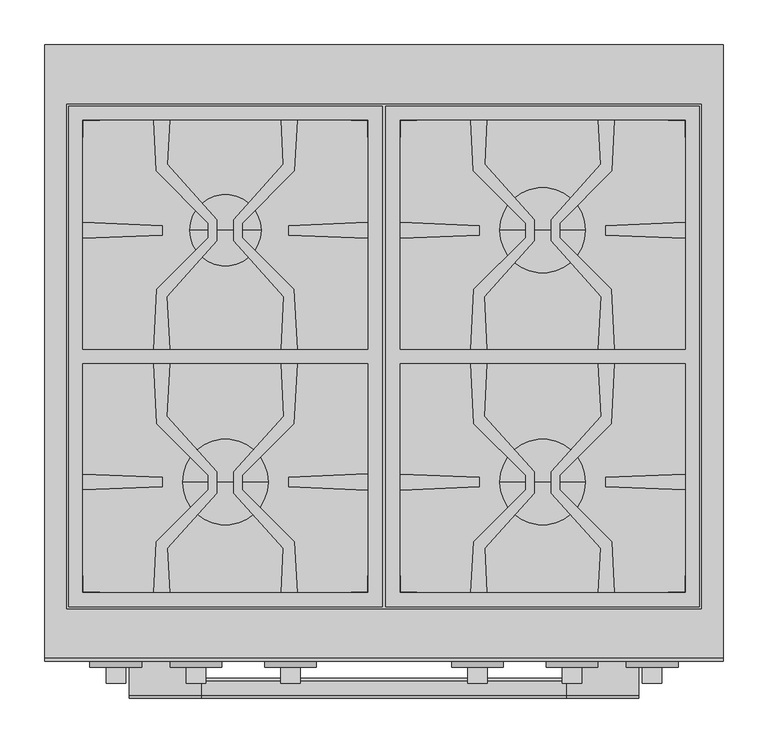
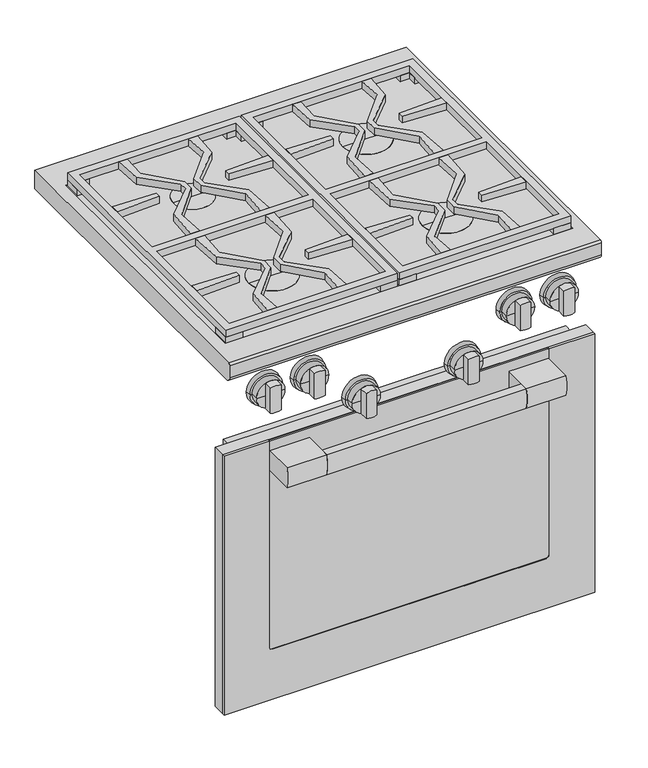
"""IFC4 building model written with IfcOpenShell, lengths in millimetres: proxy geometry, 11791530_USA_HR1724-3G_EDST-CLST : 25172481_USA_11791530_HR1724-3G_EDST-CLST."""

from ifc_helpers import new_model, si_unit, point, frame, frame_2d, origin, place, context, project, spatial, polyline, circle_curve, trimmed, segment, composite_curve, outline, extrude, source, transform, mapped, element, save
from ifc_brep_helpers import plane_surface, cylinder_surface, revolved_surface, advanced_brep


def specialty_equipment_ee7d39d8(model_context):
    return source(origin(), model_context, "Body", "SolidModel", [
        extrude(outline(polyline([(-351.0, -617.0), (351.0, -617.0), (351.0, -638.0), (-351.0, -638.0), (-351.0, -617.0)])), frame((0.0, 0.0, 133.0), z_axis=(0.0, 0.0, 1.0), x_axis=(1.0, 0.0, 0.0)), (0.0, 0.0, 1.0), 550.0),
        advanced_brep(
        [(287.0, -664.7, 688.0), (380.0, -664.7, 688.0), (380.0, -664.7, 127.0), (-380.0, -664.7, 127.0), (-380.0, -664.7, 688.0), (-287.0, -664.7, 688.0), (-287.0, -664.7, 687.0), (-379.0, -664.7, 687.0), (-379.0, -664.7, 128.0), (379.0, -664.7, 128.0), (379.0, -664.7, 687.0), (287.0, -664.7, 687.0), (-287.0, -670.0, 688.0), (-380.0, -670.0, 688.0), (-380.0, -670.0, 127.0), (380.0, -670.0, 127.0), (380.0, -670.0, 688.0), (287.0, -670.0, 688.0), (287.0, -670.0, 241.0), (281.0, -670.0, 235.0), (-281.0, -670.0, 235.0), (-287.0, -670.0, 241.0), (-287.0, -668.7, 241.0), (-287.0, -668.7, 687.0), (281.0, -668.7, 235.0), (-281.0, -668.7, 235.0), (287.0, -668.7, 687.0), (287.0, -668.7, 241.0), (379.0, -668.7, 687.0), (379.0, -668.7, 128.0), (-379.0, -668.7, 128.0), (-379.0, -668.7, 687.0)],
        [
            (0, 1),
            (1, 2),
            (2, 3),
            (3, 4),
            (4, 5),
            (5, 6),
            (6, 7),
            (7, 8),
            (8, 9),
            (9, 10),
            (10, 11),
            (11, 0),
            (12, 13),
            (13, 14),
            (14, 15),
            (15, 16),
            (16, 17),
            (17, 18),
            (18, 19, circle_curve(frame((281.0, -670.0, 241.0), z_axis=(0.0, 1.0, 0.0), x_axis=(-1.0, 0.0, 0.0)), 6.0)),
            (19, 20),
            (20, 21, circle_curve(frame((-281.0, -670.0, 241.0), z_axis=(0.0, 1.0, 0.0), x_axis=(-1.0, 0.0, 0.0)), 6.0)),
            (21, 12),
            (21, 22),
            (22, 23),
            (23, 6),
            (5, 12),
            (19, 24),
            (24, 25),
            (25, 20),
            (17, 0),
            (11, 26),
            (26, 27),
            (27, 18),
            (16, 1),
            (15, 2),
            (14, 3),
            (13, 4),
            (25, 22, circle_curve(frame((-281.0, -668.7, 241.0), z_axis=(0.0, 1.0, 0.0), x_axis=(-1.0, 0.0, 0.0)), 6.0)),
            (27, 24, circle_curve(frame((281.0, -668.7, 241.0), z_axis=(0.0, 1.0, 0.0), x_axis=(-1.0, 0.0, 0.0)), 6.0)),
            (28, 29),
            (29, 30),
            (30, 31),
            (31, 23),
            (26, 28),
            (28, 10),
            (9, 29),
            (8, 30),
            (7, 31),
        ],
        [
            plane_surface(frame((-287.0, -664.7, 241.0), z_axis=(0.0, 1.0, 0.0), x_axis=(0.0, 0.0, -1.0))),
            plane_surface(frame((-287.0, -670.0, 241.0), z_axis=(0.0, -1.0, 0.0), x_axis=(0.0, 0.0, 1.0))),
            plane_surface(frame((-287.0, -664.7, 688.0), z_axis=(1.0, 0.0, 0.0), x_axis=(0.0, -1.0, 0.0))),
            plane_surface(frame((-281.0, -664.7, 235.0), z_axis=(0.0, 0.0, 1.0), x_axis=(0.0, -1.0, 0.0))),
            plane_surface(frame((287.0, -664.7, 241.0), z_axis=(-1.0, 0.0, 0.0), x_axis=(0.0, -1.0, 0.0))),
            plane_surface(frame((287.0, -664.7, 688.0), z_axis=(0.0, 0.0, 1.0), x_axis=(0.0, -1.0, 0.0))),
            plane_surface(frame((380.0, -664.7, 688.0), z_axis=(1.0, 0.0, 0.0), x_axis=(0.0, -1.0, 0.0))),
            plane_surface(frame((380.0, -664.7, 127.0), z_axis=(0.0, 0.0, -1.0), x_axis=(0.0, -1.0, 0.0))),
            plane_surface(frame((-380.0, -664.7, 127.0), z_axis=(-1.0, 0.0, 0.0), x_axis=(0.0, -1.0, 0.0))),
            plane_surface(frame((-380.0, -664.7, 688.0), z_axis=(0.0, 0.0, 1.0), x_axis=(0.0, -1.0, 0.0))),
            revolved_surface(polyline([(-287.0, -670.0, 241.0), (-287.0, -668.7, 241.0)]), (-281.0, -670.0, 241.0), (0.0, -1.0, 0.0)),
            revolved_surface(polyline([(275.0, -670.0, 241.0), (275.0, -668.7, 241.0)]), (281.0, -670.0, 241.0), (0.0, -1.0, 0.0)),
            plane_surface(frame((379.0, -668.7, 687.0), z_axis=(0.0, 1.0, 0.0), x_axis=(0.0, 0.0, 1.0))),
            plane_surface(frame((379.0, -664.7, 687.0), z_axis=(-1.0, 0.0, 0.0), x_axis=(0.0, -1.0, 0.0))),
            plane_surface(frame((379.0, -664.7, 128.0), z_axis=(0.0, 0.0, 1.0), x_axis=(0.0, -1.0, 0.0))),
            plane_surface(frame((-379.0, -664.7, 128.0), z_axis=(1.0, 0.0, 0.0), x_axis=(0.0, -1.0, 0.0))),
            plane_surface(frame((-379.0, -664.7, 687.0), z_axis=(0.0, 0.0, -1.0), x_axis=(0.0, -1.0, 0.0))),
        ],
        [
            (0, [[1, 2, 3, 4, 5, 6, 7, 8, 9, 10, 11, 12]]),
            (1, [[13, 14, 15, 16, 17, 18, 19, 20, 21, 22]]),
            (2, [[-22, 23, 24, 25, -6, 26]]),
            (3, [[-20, 27, 28, 29]]),
            (4, [[-18, 30, -12, 31, 32, 33]]),
            (5, [[-1, -30, -17, 34]]),
            (6, [[-2, -34, -16, 35]]),
            (7, [[-3, -35, -15, 36]]),
            (8, [[-4, -36, -14, 37]]),
            (9, [[-5, -37, -13, -26]]),
            (10, [[-21, -29, 38, -23]]),
            (11, [[-19, -33, 39, -27]]),
            (12, [[40, 41, 42, 43, -24, -38, -28, -39, -32, 44]]),
            (13, [[-40, 45, -10, 46]]),
            (14, [[-41, -46, -9, 47]]),
            (15, [[-42, -47, -8, 48]]),
            (16, [[-45, -44, -31, -11]]),
            (16, [[-48, -7, -25, -43]]),
        ],
    ),
        extrude(outline(polyline([(-379.0, -664.7), (379.0, -664.7), (379.0, -668.7), (-379.0, -668.7), (-379.0, -664.7)])), frame((0.0, 0.0, 128.0), z_axis=(0.0, 0.0, 1.0), x_axis=(1.0, 0.0, 0.0)), (0.0, 0.0, 1.0), 559.0),
        extrude(outline(polyline([(-380.0, -638.0), (380.0, -638.0), (380.0, -664.7), (-380.0, -664.7), (-380.0, -638.0)])), frame((0.0, 0.0, 127.0), z_axis=(0.0, 0.0, 1.0), x_axis=(1.0, 0.0, 0.0)), (0.0, 0.0, 1.0), 561.0),
        extrude(outline(composite_curve([segment(polyline([(-668.7, 667.0), (-668.7, 624.0), (-731.0, 624.0)]), True, "CONTINUOUS"), segment(trimmed(circle_curve(frame_2d((-655.4583333, 645.5)), 78.5416667), [point((-731.0, 624.0))], [point((-731.0, 667.0))], False, "CARTESIAN"), True, "CONTINUOUS"), segment(polyline([(-731.0, 667.0), (-668.7, 667.0)]), True, "CONTINUOUS")], self_intersect=False)), frame((-286.0, 0.0, 0.0), z_axis=(1.0, 0.0, 0.0), x_axis=(0.0, 1.0, 0.0)), (0.0, 0.0, 1.0), 81.0),
        extrude(outline(composite_curve([segment(polyline([(-731.0, 667.0), (-668.7, 667.0), (-668.7, 624.0), (-731.0, 624.0)]), True, "CONTINUOUS"), segment(trimmed(circle_curve(frame_2d((-655.4583333, 645.5)), 78.5416667), [point((-731.0, 624.0))], [point((-731.0, 667.0))], False, "CARTESIAN"), True, "CONTINUOUS")], self_intersect=False)), frame((205.0, 0.0, 0.0), z_axis=(1.0, 0.0, 0.0), x_axis=(0.0, 1.0, 0.0)), (0.0, 0.0, 1.0), 81.0),
        extrude(outline(composite_curve([segment(polyline([(-714.0, 624.0), (-731.0, 624.0)]), True, "CONTINUOUS"), segment(trimmed(circle_curve(frame_2d((-655.4583333, 645.5)), 78.5416667), [point((-731.0, 624.0))], [point((-731.0, 667.0))], False, "CARTESIAN"), True, "CONTINUOUS"), segment(polyline([(-731.0, 667.0), (-714.0, 667.0)]), True, "CONTINUOUS"), segment(trimmed(circle_curve(frame_2d((-789.5416667, 645.5)), 78.5416667), [point((-714.0, 667.0))], [point((-714.0, 624.0))], False, "CARTESIAN"), True, "CONTINUOUS")], self_intersect=False)), frame((-205.0, 0.0, 0.0), z_axis=(1.0, 0.0, 0.0), x_axis=(0.0, 1.0, 0.0)), (0.0, 0.0, 1.0), 410.0),
        advanced_brep(
        [(381.0, 0.0, 902.0), (381.0, -688.3499547, 902.0), (381.0, -692.0, 898.3499547), (381.0, -692.0, 872.0), (381.0, -682.0, 862.0), (381.0, 0.0, 862.0), (-381.0, 0.0, 902.0), (-381.0, 0.0, 862.0), (-381.0, -682.0, 862.0), (-381.0, -692.0, 872.0), (-381.0, -692.0, 898.3499547), (-381.0, -688.3499547, 902.0), (-356.0, -67.0, 902.0), (356.0, -67.0, 902.0), (356.0, -633.0, 902.0), (-356.0, -633.0, 902.0), (356.0, -67.0, 870.0), (-356.0, -67.0, 870.0), (-356.0, -633.0, 870.0), (356.0, -633.0, 870.0)],
        [
            (0, 1),
            (1, 2, circle_curve(frame((381.0, -688.0, 898.0), z_axis=(1.0, 0.0, 0.0), x_axis=(0.0, 0.0, 1.0)), 4.0152794)),
            (2, 3),
            (3, 4, circle_curve(frame((381.0, -682.0, 872.0), z_axis=(1.0, 0.0, 0.0), x_axis=(0.0, 0.0, 1.0)), 10.0)),
            (4, 5),
            (5, 0),
            (6, 7),
            (7, 8),
            (8, 9, circle_curve(frame((-381.0, -682.0, 872.0), z_axis=(-1.0, 0.0, 0.0), x_axis=(0.0, 0.0, 1.0)), 10.0)),
            (9, 10),
            (10, 11, circle_curve(frame((-381.0, -688.0, 898.0), z_axis=(-1.0, 0.0, 0.0), x_axis=(0.0, 0.0, 1.0)), 4.0152794)),
            (11, 6),
            (0, 6),
            (11, 1),
            (12, 13),
            (13, 14),
            (14, 15),
            (15, 12),
            (10, 2),
            (9, 3),
            (8, 4),
            (7, 5),
            (16, 17),
            (17, 18),
            (18, 19),
            (19, 16),
            (16, 13),
            (12, 17),
            (15, 18),
            (14, 19),
        ],
        [
            plane_surface(frame((381.0, -688.3499547, 902.0), z_axis=(1.0, 0.0, 0.0), x_axis=(0.0, -1.0, 0.0))),
            plane_surface(frame((-381.0, -688.3499547, 902.0), z_axis=(-1.0, 0.0, 0.0), x_axis=(0.0, 1.0, 0.0))),
            plane_surface(frame((381.0, 0.0, 902.0), z_axis=(0.0, 0.0, 1.0), x_axis=(-1.0, 0.0, 0.0))),
            cylinder_surface(frame((-381.0, -688.0, 898.0), z_axis=(1.0, 0.0, 0.0), x_axis=(0.0, 0.0, 1.0)), 4.0152794),
            plane_surface(frame((381.0, -692.0, 898.3499547), z_axis=(0.0, -1.0, 0.0), x_axis=(-1.0, 0.0, 0.0))),
            cylinder_surface(frame((-381.0, -682.0, 872.0), z_axis=(1.0, 0.0, 0.0), x_axis=(0.0, 0.0, 1.0)), 10.0),
            plane_surface(frame((381.0, -682.0, 862.0), z_axis=(0.0, 0.0, -1.0), x_axis=(-1.0, 0.0, 0.0))),
            plane_surface(frame((381.0, 0.0, 862.0), z_axis=(0.0, 1.0, 0.0), x_axis=(-1.0, 0.0, 0.0))),
            plane_surface(frame((-356.0, -67.0, 870.0), z_axis=(0.0, 0.0, 1.0), x_axis=(1.0, 0.0, 0.0))),
            plane_surface(frame((356.0, -67.0, 902.0), z_axis=(0.0, -1.0, 0.0), x_axis=(0.0, 0.0, -1.0))),
            plane_surface(frame((-356.0, -67.0, 902.0), z_axis=(1.0, 0.0, 0.0), x_axis=(0.0, 0.0, -1.0))),
            plane_surface(frame((-356.0, -633.0, 902.0), z_axis=(0.0, 1.0, 0.0), x_axis=(0.0, 0.0, -1.0))),
            plane_surface(frame((356.0, -633.0, 902.0), z_axis=(-1.0, 0.0, 0.0), x_axis=(0.0, 0.0, -1.0))),
        ],
        [
            (0, [[1, 2, 3, 4, 5, 6]]),
            (1, [[7, 8, 9, 10, 11, 12]]),
            (2, [[-1, 13, -12, 14], [15, 16, 17, 18]]),
            (3, [[-2, -14, -11, 19]]),
            (4, [[-3, -19, -10, 20]]),
            (5, [[-4, -20, -9, 21]]),
            (6, [[-5, -21, -8, 22]]),
            (7, [[-6, -22, -7, -13]]),
            (8, [[23, 24, 25, 26]]),
            (9, [[-23, 27, -15, 28]]),
            (10, [[-24, -28, -18, 29]]),
            (11, [[-25, -29, -17, 30]]),
            (12, [[-26, -30, -16, -27]]),
        ],
    ),
        advanced_brep(
        [(130.0, -491.0, 887.0), (226.0, -491.0, 887.0), (226.0, -491.0, 901.0), (130.0, -491.0, 901.0), (178.0, -491.0, 887.0), (178.0, -491.0, 901.0)],
        [
            (0, 1, circle_curve(frame((178.0, -491.0, 887.0), z_axis=(0.0, 0.0, 1.0), x_axis=(1.0, 0.0, 0.0)), 48.0)),
            (1, 2),
            (2, 3, circle_curve(frame((178.0, -491.0, 901.0), z_axis=(0.0, 0.0, -1.0), x_axis=(1.0, 0.0, 0.0)), 48.0)),
            (3, 0),
            (1, 0, circle_curve(frame((178.0, -491.0, 887.0), z_axis=(0.0, 0.0, 1.0), x_axis=(1.0, 0.0, 0.0)), 48.0)),
            (3, 2, circle_curve(frame((178.0, -491.0, 901.0), z_axis=(0.0, 0.0, -1.0), x_axis=(1.0, 0.0, 0.0)), 48.0)),
            (4, 1),
            (0, 4),
            (2, 5),
            (5, 3),
        ],
        [
            cylinder_surface(frame((178.0, -491.0, 2424.4), z_axis=(0.0, 0.0, -1.0), x_axis=(1.0, 0.0, 0.0)), 48.0),
            plane_surface(frame((178.0, -491.0, 887.0), z_axis=(0.0, 0.0, -1.0), x_axis=(1.0, 0.0, 0.0))),
            plane_surface(frame((178.0, -491.0, 901.0), z_axis=(0.0, 0.0, 1.0), x_axis=(1.0, 0.0, 0.0))),
        ],
        [
            (0, [[1, 2, 3, 4]]),
            (0, [[5, -4, 6, -2]]),
            (1, [[7, -1, 8]]),
            (1, [[-8, -5, -7]]),
            (2, [[-3, 9, 10]]),
            (2, [[-6, -10, -9]]),
        ],
    ),
        advanced_brep(
        [(-226.0, -491.0, 887.0), (-130.0, -491.0, 887.0), (-130.0, -491.0, 901.0), (-226.0, -491.0, 901.0), (-178.0, -491.0, 887.0), (-178.0, -491.0, 901.0)],
        [
            (0, 1, circle_curve(frame((-178.0, -491.0, 887.0), z_axis=(0.0, 0.0, 1.0), x_axis=(1.0, 0.0, 0.0)), 48.0)),
            (1, 2),
            (2, 3, circle_curve(frame((-178.0, -491.0, 901.0), z_axis=(0.0, 0.0, -1.0), x_axis=(1.0, 0.0, 0.0)), 48.0)),
            (3, 0),
            (1, 0, circle_curve(frame((-178.0, -491.0, 887.0), z_axis=(0.0, 0.0, 1.0), x_axis=(1.0, 0.0, 0.0)), 48.0)),
            (3, 2, circle_curve(frame((-178.0, -491.0, 901.0), z_axis=(0.0, 0.0, -1.0), x_axis=(1.0, 0.0, 0.0)), 48.0)),
            (4, 1),
            (0, 4),
            (2, 5),
            (5, 3),
        ],
        [
            cylinder_surface(frame((-178.0, -491.0, 2424.4), z_axis=(0.0, 0.0, -1.0), x_axis=(1.0, 0.0, 0.0)), 48.0),
            plane_surface(frame((-178.0, -491.0, 887.0), z_axis=(0.0, 0.0, -1.0), x_axis=(1.0, 0.0, 0.0))),
            plane_surface(frame((-178.0, -491.0, 901.0), z_axis=(0.0, 0.0, 1.0), x_axis=(1.0, 0.0, 0.0))),
        ],
        [
            (0, [[1, 2, 3, 4]]),
            (0, [[5, -4, 6, -2]]),
            (1, [[7, -1, 8]]),
            (1, [[-8, -5, -7]]),
            (2, [[-3, 9, 10]]),
            (2, [[-6, -10, -9]]),
        ],
    ),
        advanced_brep(
        [(-178.0, -208.5, 887.0), (-138.0, -208.5, 887.0), (-218.0, -208.5, 887.0), (-218.0, -208.5, 901.0), (-138.0, -208.5, 901.0), (-178.0, -208.5, 901.0)],
        [
            (0, 1),
            (1, 2, circle_curve(frame((-178.0, -208.5, 887.0), z_axis=(0.0, 0.0, -1.0), x_axis=(1.0, 0.0, 0.0)), 40.0)),
            (2, 0),
            (2, 1, circle_curve(frame((-178.0, -208.5, 887.0), z_axis=(0.0, 0.0, -1.0), x_axis=(1.0, 0.0, 0.0)), 40.0)),
            (3, 4, circle_curve(frame((-178.0, -208.5, 901.0), z_axis=(0.0, 0.0, 1.0), x_axis=(1.0, 0.0, 0.0)), 40.0)),
            (4, 5),
            (5, 3),
            (4, 3, circle_curve(frame((-178.0, -208.5, 901.0), z_axis=(0.0, 0.0, 1.0), x_axis=(1.0, 0.0, 0.0)), 40.0)),
            (1, 4),
            (3, 2),
        ],
        [
            plane_surface(frame((-178.0, -208.5, 887.0), z_axis=(0.0, 0.0, -1.0), x_axis=(1.0, 0.0, 0.0))),
            plane_surface(frame((-178.0, -208.5, 901.0), z_axis=(0.0, 0.0, 1.0), x_axis=(1.0, 0.0, 0.0))),
            cylinder_surface(frame((-178.0, -208.5, 2424.4), z_axis=(0.0, 0.0, -1.0), x_axis=(1.0, 0.0, 0.0)), 40.0),
        ],
        [
            (0, [[1, 2, 3]]),
            (0, [[-3, 4, -1]]),
            (1, [[5, 6, 7]]),
            (1, [[8, -7, -6]]),
            (2, [[-2, 9, -5, 10]]),
            (2, [[-4, -10, -8, -9]]),
        ],
    ),
        advanced_brep(
        [(130.0, -208.5, 887.0), (226.0, -208.5, 887.0), (226.0, -208.5, 901.0), (130.0, -208.5, 901.0), (178.0, -208.5, 887.0), (178.0, -208.5, 901.0)],
        [
            (0, 1, circle_curve(frame((178.0, -208.5, 887.0), z_axis=(0.0, 0.0, 1.0), x_axis=(1.0, 0.0, 0.0)), 48.0)),
            (1, 2),
            (2, 3, circle_curve(frame((178.0, -208.5, 901.0), z_axis=(0.0, 0.0, -1.0), x_axis=(1.0, 0.0, 0.0)), 48.0)),
            (3, 0),
            (1, 0, circle_curve(frame((178.0, -208.5, 887.0), z_axis=(0.0, 0.0, 1.0), x_axis=(1.0, 0.0, 0.0)), 48.0)),
            (3, 2, circle_curve(frame((178.0, -208.5, 901.0), z_axis=(0.0, 0.0, -1.0), x_axis=(1.0, 0.0, 0.0)), 48.0)),
            (4, 1),
            (0, 4),
            (2, 5),
            (5, 3),
        ],
        [
            cylinder_surface(frame((178.0, -208.5, 2338.4), z_axis=(0.0, 0.0, -1.0), x_axis=(1.0, 0.0, 0.0)), 48.0),
            plane_surface(frame((178.0, -208.5, 887.0), z_axis=(0.0, 0.0, -1.0), x_axis=(1.0, 0.0, 0.0))),
            plane_surface(frame((178.0, -208.5, 901.0), z_axis=(0.0, 0.0, 1.0), x_axis=(1.0, 0.0, 0.0))),
        ],
        [
            (0, [[1, 2, 3, 4]]),
            (0, [[5, -4, 6, -2]]),
            (1, [[7, -1, 8]]),
            (1, [[-8, -5, -7]]),
            (2, [[-3, 9, 10]]),
            (2, [[-6, -10, -9]]),
        ],
    ),
        extrude(outline(polyline([(354.0, -631.0), (319.0, -631.0), (319.0, -615.0), (338.0337834, -615.0), (338.0337834, -596.0), (354.0, -596.0), (354.0, -631.0)])), frame((0.0, 0.0, 887.0), z_axis=(0.0, 0.0, 1.0), x_axis=(1.0, 0.0, 0.0)), (0.0, 0.0, 1.0), 27.0),
        extrude(outline(polyline([(2.0, -631.0), (2.0, -596.0), (18.0337834, -596.0), (18.0337834, -615.0), (37.0, -615.0), (37.0, -631.0), (2.0, -631.0)])), frame((0.0, 0.0, 887.0), z_axis=(0.0, 0.0, 1.0), x_axis=(1.0, 0.0, 0.0)), (0.0, 0.0, 1.0), 27.0),
        extrude(outline(polyline([(354.0, -69.0), (354.0, -104.0), (338.0337834, -104.0), (338.0337834, -85.0), (319.0, -85.0), (319.0, -69.0), (354.0, -69.0)])), frame((0.0, 0.0, 887.0), z_axis=(0.0, 0.0, 1.0), x_axis=(1.0, 0.0, 0.0)), (0.0, 0.0, 1.0), 27.0),
        extrude(outline(polyline([(2.0, -69.0), (37.0, -69.0), (37.0, -85.0), (18.0337834, -85.0), (18.0337834, -104.0), (2.0, -104.0), (2.0, -69.0)])), frame((0.0, 0.0, 887.0), z_axis=(0.0, 0.0, 1.0), x_axis=(1.0, 0.0, 0.0)), (0.0, 0.0, 1.0), 27.0),
        extrude(outline(polyline([(354.0, -69.0), (354.0, -631.0), (2.0, -631.0), (2.0, -69.0), (354.0, -69.0)]), holes=[polyline([(338.0337834, -85.0), (18.0337834, -85.0), (18.0337834, -342.0), (338.0337834, -342.0), (338.0337834, -85.0)]), polyline([(18.0337834, -358.0), (18.0337834, -615.0), (338.0337834, -615.0), (338.0337834, -358.0), (18.0337834, -358.0)])]), frame((0.0, 0.0, 914.0), z_axis=(0.0, 0.0, 1.0), x_axis=(1.0, 0.0, 0.0)), (0.0, 0.0, 1.0), 15.0),
        extrude(outline(polyline([(-2.0, -69.0), (-2.0, -631.0), (-354.0, -631.0), (-354.0, -69.0), (-2.0, -69.0)]), holes=[polyline([(-18.0, -85.0), (-338.0, -85.0), (-338.0, -342.0), (-18.0, -342.0), (-18.0, -85.0)]), polyline([(-338.0, -358.0), (-338.0, -615.0), (-18.0, -615.0), (-18.0, -358.0), (-338.0, -358.0)])]), frame((0.0, 0.0, 914.0), z_axis=(0.0, 0.0, 1.0), x_axis=(1.0, 0.0, 0.0)), (0.0, 0.0, 1.0), 15.0),
        extrude(outline(polyline([(18.0337834, -217.4810574), (18.0337834, -199.5189426), (107.0337834, -203.2078739), (107.0337834, -213.7921261), (18.0337834, -217.4810574)])), frame((0.0, 0.0, 914.0), z_axis=(0.0, 0.0, 1.0), x_axis=(1.0, 0.0, 0.0)), (0.0, 0.0, 1.0), 15.0),
        extrude(outline(polyline([(338.0337834, -199.5262039), (338.0337834, -217.4737961), (249.0337834, -213.7790477), (249.0337834, -203.2209523), (338.0337834, -199.5262039)])), frame((0.0, 0.0, 914.0), z_axis=(0.0, 0.0, 1.0), x_axis=(1.0, 0.0, 0.0)), (0.0, 0.0, 1.0), 15.0),
        extrude(outline(polyline([(18.0337834, -499.9810574), (18.0337834, -482.0189426), (107.0337834, -485.7078739), (107.0337834, -496.2921261), (18.0337834, -499.9810574)])), frame((0.0, 0.0, 914.0), z_axis=(0.0, 0.0, 1.0), x_axis=(1.0, 0.0, 0.0)), (0.0, 0.0, 1.0), 15.0),
        extrude(outline(polyline([(338.0337834, -482.0262039), (338.0337834, -499.9737961), (249.0337834, -496.2790477), (249.0337834, -485.7209523), (338.0337834, -482.0262039)])), frame((0.0, 0.0, 914.0), z_axis=(0.0, 0.0, 1.0), x_axis=(1.0, 0.0, 0.0)), (0.0, 0.0, 1.0), 15.0),
        extrude(outline(polyline([(-2.0, -631.0), (-37.0, -631.0), (-37.0, -615.0), (-18.0, -615.0), (-18.0, -596.0), (-2.0, -596.0), (-2.0, -631.0)])), frame((0.0, 0.0, 887.0), z_axis=(0.0, 0.0, 1.0), x_axis=(1.0, 0.0, 0.0)), (0.0, 0.0, 1.0), 27.0),
        extrude(outline(polyline([(-354.0, -631.0), (-354.0, -596.0), (-338.0, -596.0), (-338.0, -615.0), (-319.0, -615.0), (-319.0, -631.0), (-354.0, -631.0)])), frame((0.0, 0.0, 887.0), z_axis=(0.0, 0.0, 1.0), x_axis=(1.0, 0.0, 0.0)), (0.0, 0.0, 1.0), 27.0),
        extrude(outline(polyline([(-2.0, -69.0), (-2.0, -104.0), (-18.0, -104.0), (-18.0, -85.0), (-37.0, -85.0), (-37.0, -69.0), (-2.0, -69.0)])), frame((0.0, 0.0, 887.0), z_axis=(0.0, 0.0, 1.0), x_axis=(1.0, 0.0, 0.0)), (0.0, 0.0, 1.0), 27.0),
        extrude(outline(polyline([(-354.0, -69.0), (-319.0, -69.0), (-319.0, -85.0), (-338.0, -85.0), (-338.0, -104.0), (-354.0, -104.0), (-354.0, -69.0)])), frame((0.0, 0.0, 887.0), z_axis=(0.0, 0.0, 1.0), x_axis=(1.0, 0.0, 0.0)), (0.0, 0.0, 1.0), 27.0),
        extrude(outline(polyline([(-249.0, -496.2921261), (-338.0, -499.9578849), (-338.0, -482.0421151), (-249.0, -485.7078739), (-249.0, -496.2921261)])), frame((0.0, 0.0, 914.0), z_axis=(0.0, 0.0, 1.0), x_axis=(1.0, 0.0, 0.0)), (0.0, 0.0, 1.0), 15.0),
        extrude(outline(polyline([(-18.0, -482.0029948), (-18.0, -499.9970052), (-107.0, -496.2790477), (-107.0, -485.7209523), (-18.0, -482.0029948)])), frame((0.0, 0.0, 914.0), z_axis=(0.0, 0.0, 1.0), x_axis=(1.0, 0.0, 0.0)), (0.0, 0.0, 1.0), 15.0),
        extrude(outline(polyline([(-249.0, -213.7921261), (-338.0, -217.4578849), (-338.0, -199.5421151), (-249.0, -203.2078739), (-249.0, -213.7921261)])), frame((0.0, 0.0, 914.0), z_axis=(0.0, 0.0, 1.0), x_axis=(1.0, 0.0, 0.0)), (0.0, 0.0, 1.0), 15.0),
        extrude(outline(polyline([(-18.0, -199.5029948), (-18.0, -217.4970052), (-107.0, -213.7790477), (-107.0, -203.2209523), (-18.0, -199.5029948)])), frame((0.0, 0.0, 914.0), z_axis=(0.0, 0.0, 1.0), x_axis=(1.0, 0.0, 0.0)), (0.0, 0.0, 1.0), 15.0),
        extrude(outline(polyline([(-2.0, -67.0), (-2.0, -633.0), (-354.0, -633.0), (-354.0, -67.0), (-2.0, -67.0)])), frame((0.0, 0.0, 870.0), z_axis=(0.0, 0.0, 1.0), x_axis=(1.0, 0.0, 0.0)), (0.0, 0.0, 1.0), 17.0),
        extrude(outline(polyline([(354.0, -69.0), (354.0, -631.0), (2.0, -631.0), (2.0, -69.0), (354.0, -69.0)])), frame((0.0, 0.0, 870.0), z_axis=(0.0, 0.0, 1.0), x_axis=(1.0, 0.0, 0.0)), (0.0, 0.0, 1.0), 17.0),
        extrude(outline(polyline([(115.4614138, -85.0), (112.8661974, -134.5196799), (168.5, -196.6082182), (168.5, -220.3917818), (112.3710782, -283.0328838), (115.4614138, -342.0), (97.4614138, -342.0), (100.9971843, -274.5334805), (158.8891082, -216.6415566), (158.8891082, -200.3584434), (100.4441217, -141.9134569), (97.4614138, -85.0), (115.4614138, -85.0)])), frame((0.0, 0.0, 914.0), z_axis=(0.0, 0.0, 1.0), x_axis=(1.0, 0.0, 0.0)), (0.0, 0.0, 1.0), 15.0),
        extrude(outline(polyline([(243.0952165, -134.5196799), (240.5, -85.0), (258.5, -85.0), (255.5172921, -141.9134569), (197.1108918, -200.3198573), (197.1108918, -216.6801428), (254.9642295, -274.5334805), (258.5, -342.0), (240.5, -342.0), (243.5903356, -283.0328839), (187.5, -220.4348449), (187.5, -196.5651551), (243.0952165, -134.5196799)])), frame((0.0, 0.0, 914.0), z_axis=(0.0, 0.0, 1.0), x_axis=(1.0, 0.0, 0.0)), (0.0, 0.0, 1.0), 15.0),
        extrude(outline(polyline([(-258.5385862, -85.0), (-240.5385862, -85.0), (-243.1338026, -134.5196799), (-187.5, -196.6082182), (-187.5, -220.3917818), (-243.6289218, -283.0328838), (-240.5385862, -342.0), (-258.5385862, -342.0), (-255.0028157, -274.5334805), (-197.1108918, -216.6415566), (-197.1108918, -200.3584434), (-255.5558783, -141.9134569), (-258.5385862, -85.0)])), frame((0.0, 0.0, 914.0), z_axis=(0.0, 0.0, 1.0), x_axis=(1.0, 0.0, 0.0)), (0.0, 0.0, 1.0), 15.0),
        extrude(outline(polyline([(-115.5, -85.0), (-97.5, -85.0), (-100.4827079, -141.9134569), (-158.8891082, -200.3198573), (-158.8891082, -216.6801428), (-101.0357705, -274.5334805), (-97.5, -342.0), (-115.5, -342.0), (-112.4096644, -283.0328839), (-168.5, -220.4348449), (-168.5, -196.5651551), (-112.9047835, -134.5196799), (-115.5, -85.0)])), frame((0.0, 0.0, 914.0), z_axis=(0.0, 0.0, 1.0), x_axis=(1.0, 0.0, 0.0)), (0.0, 0.0, 1.0), 15.0),
        extrude(outline(polyline([(-258.5822696, -358.0273828), (-240.5825893, -358.0273828), (-243.6525581, -416.9894265), (-187.5409434, -479.568392), (-187.5409434, -503.4471434), (-243.1069467, -565.5024535), (-240.4948945, -615.0212482), (-258.4945748, -615.0212482), (-255.5293542, -558.0710081), (-197.1505447, -499.6921986), (-197.1505447, -483.3657133), (-255.0235617, -425.4926963), (-258.5822696, -358.0273828)])), frame((0.0, 0.0, 914.0), z_axis=(0.0, 0.0, 1.0), x_axis=(1.0, 0.0, 0.0)), (0.0, 0.0, 1.0), 15.0),
        extrude(outline(polyline([(-115.5411265, -358.0273828), (-97.5465434, -358.0273828), (-101.0565254, -425.4403498), (-158.9287769, -483.3126013), (-158.9287769, -499.6295194), (-100.4561608, -558.1021355), (-97.4537513, -615.0212482), (-115.458529, -615.0212482), (-112.8779352, -565.4581775), (-168.5409298, -503.3795395), (-168.5409298, -479.6049953), (-112.4333083, -416.9448139), (-115.5411265, -358.0273828)])), frame((0.0, 0.0, 914.0), z_axis=(0.0, 0.0, 1.0), x_axis=(1.0, 0.0, 0.0)), (0.0, 0.0, 1.0), 15.0),
        extrude(outline(polyline([(97.4177304, -358.0273828), (115.4174107, -358.0273828), (112.3474419, -416.9894265), (168.4590566, -479.568392), (168.4590566, -503.4471434), (112.8930533, -565.5024535), (115.5051055, -615.0212482), (97.5054252, -615.0212482), (100.4706458, -558.0710081), (158.8494553, -499.6921986), (158.8494553, -483.3657133), (100.9764383, -425.4926963), (97.4177304, -358.0273828)])), frame((0.0, 0.0, 914.0), z_axis=(0.0, 0.0, 1.0), x_axis=(1.0, 0.0, 0.0)), (0.0, 0.0, 1.0), 15.0),
        extrude(outline(polyline([(243.5666917, -416.9448139), (240.4588735, -358.0273828), (258.4534566, -358.0273828), (254.9434746, -425.4403498), (197.0712231, -483.3126013), (197.0712231, -499.6295194), (255.5438392, -558.1021355), (258.5462487, -615.0212482), (240.541471, -615.0212482), (243.1220648, -565.4581775), (187.4590702, -503.3795395), (187.4590702, -479.6049953), (243.5666917, -416.9448139)])), frame((0.0, 0.0, 914.0), z_axis=(0.0, 0.0, 1.0), x_axis=(1.0, 0.0, 0.0)), (0.0, 0.0, 1.0), 15.0),
        extrude(outline(polyline([(356.0, -67.0), (356.0, -633.0), (-356.0, -633.0), (-356.0, -67.0), (356.0, -67.0)])), frame((0.0, 0.0, 870.0), z_axis=(0.0, 0.0, 1.0), x_axis=(1.0, 0.0, 0.0)), (0.0, 0.0, 1.0), 31.0),
        advanced_brep(
        [(301.0, -683.0, 813.0), (330.0, -683.0, 813.0), (272.0, -683.0, 813.0), (272.0, -699.0, 813.0), (330.0, -699.0, 813.0), (301.0, -699.0, 813.0)],
        [
            (0, 1),
            (1, 2, circle_curve(frame((301.0, -683.0, 813.0), z_axis=(0.0, 1.0, 0.0), x_axis=(1.0, 0.0, 0.0)), 29.0)),
            (2, 0),
            (2, 1, circle_curve(frame((301.0, -683.0, 813.0), z_axis=(0.0, 1.0, 0.0), x_axis=(1.0, 0.0, 0.0)), 29.0)),
            (3, 4, circle_curve(frame((301.0, -699.0, 813.0), z_axis=(0.0, -1.0, 0.0), x_axis=(1.0, 0.0, 0.0)), 29.0)),
            (4, 5),
            (5, 3),
            (4, 3, circle_curve(frame((301.0, -699.0, 813.0), z_axis=(0.0, -1.0, 0.0), x_axis=(1.0, 0.0, 0.0)), 29.0)),
            (1, 4),
            (3, 2),
        ],
        [
            plane_surface(frame((301.0, -683.0, 813.0), z_axis=(0.0, 1.0, 0.0), x_axis=(1.0, 0.0, 0.0))),
            plane_surface(frame((301.0, -699.0, 813.0), z_axis=(0.0, -1.0, 0.0), x_axis=(1.0, 0.0, 0.0))),
            cylinder_surface(frame((301.0, 751.3738435, 813.0), z_axis=(0.0, 1.0, 0.0), x_axis=(1.0, 0.0, 0.0)), 29.0),
        ],
        [
            (0, [[1, 2, 3]]),
            (0, [[-3, 4, -1]]),
            (1, [[5, 6, 7]]),
            (1, [[8, -7, -6]]),
            (2, [[-2, 9, -5, 10]]),
            (2, [[-4, -10, -8, -9]]),
        ],
    ),
        extrude(outline(composite_curve([segment(polyline([(786.1671843, 312.0), (839.8328157, 312.0)]), True, "CONTINUOUS"), segment(trimmed(circle_curve(frame_2d((813.0, 301.0)), 29.0), [point((839.8328157, 312.0))], [point((839.8328157, 290.0))], False, "CARTESIAN"), True, "CONTINUOUS"), segment(polyline([(839.8328157, 290.0), (786.1671843, 290.0)]), True, "CONTINUOUS"), segment(trimmed(circle_curve(frame_2d((813.0, 301.0)), 29.0), [point((786.1671843, 290.0))], [point((786.1671843, 312.0))], False, "CARTESIAN"), True, "CONTINUOUS")], self_intersect=False)), frame((0.0, -717.0, 0.0), z_axis=(0.0, 1.0, 0.0), x_axis=(0.0, 0.0, 1.0)), (0.0, 0.0, 1.0), 18.0),
        advanced_brep(
        [(211.0, -683.0, 813.0), (240.0, -683.0, 813.0), (182.0, -683.0, 813.0), (182.0, -699.0, 813.0), (240.0, -699.0, 813.0), (211.0, -699.0, 813.0)],
        [
            (0, 1),
            (1, 2, circle_curve(frame((211.0, -683.0, 813.0), z_axis=(0.0, 1.0, 0.0), x_axis=(1.0, 0.0, 0.0)), 29.0)),
            (2, 0),
            (2, 1, circle_curve(frame((211.0, -683.0, 813.0), z_axis=(0.0, 1.0, 0.0), x_axis=(1.0, 0.0, 0.0)), 29.0)),
            (3, 4, circle_curve(frame((211.0, -699.0, 813.0), z_axis=(0.0, -1.0, 0.0), x_axis=(1.0, 0.0, 0.0)), 29.0)),
            (4, 5),
            (5, 3),
            (4, 3, circle_curve(frame((211.0, -699.0, 813.0), z_axis=(0.0, -1.0, 0.0), x_axis=(1.0, 0.0, 0.0)), 29.0)),
            (1, 4),
            (3, 2),
        ],
        [
            plane_surface(frame((211.0, -683.0, 813.0), z_axis=(0.0, 1.0, 0.0), x_axis=(1.0, 0.0, 0.0))),
            plane_surface(frame((211.0, -699.0, 813.0), z_axis=(0.0, -1.0, 0.0), x_axis=(1.0, 0.0, 0.0))),
            cylinder_surface(frame((211.0, 751.3738435, 813.0), z_axis=(0.0, 1.0, 0.0), x_axis=(1.0, 0.0, 0.0)), 29.0),
        ],
        [
            (0, [[1, 2, 3]]),
            (0, [[-3, 4, -1]]),
            (1, [[5, 6, 7]]),
            (1, [[8, -7, -6]]),
            (2, [[-2, 9, -5, 10]]),
            (2, [[-4, -10, -8, -9]]),
        ],
    ),
        advanced_brep(
        [(-211.0, -683.0, 813.0), (-182.0, -683.0, 813.0), (-240.0, -683.0, 813.0), (-240.0, -699.0, 813.0), (-182.0, -699.0, 813.0), (-211.0, -699.0, 813.0)],
        [
            (0, 1),
            (1, 2, circle_curve(frame((-211.0, -683.0, 813.0), z_axis=(0.0, 1.0, 0.0), x_axis=(1.0, 0.0, 0.0)), 29.0)),
            (2, 0),
            (2, 1, circle_curve(frame((-211.0, -683.0, 813.0), z_axis=(0.0, 1.0, 0.0), x_axis=(1.0, 0.0, 0.0)), 29.0)),
            (3, 4, circle_curve(frame((-211.0, -699.0, 813.0), z_axis=(0.0, -1.0, 0.0), x_axis=(1.0, 0.0, 0.0)), 29.0)),
            (4, 5),
            (5, 3),
            (4, 3, circle_curve(frame((-211.0, -699.0, 813.0), z_axis=(0.0, -1.0, 0.0), x_axis=(1.0, 0.0, 0.0)), 29.0)),
            (1, 4),
            (3, 2),
        ],
        [
            plane_surface(frame((-211.0, -683.0, 813.0), z_axis=(0.0, 1.0, 0.0), x_axis=(1.0, 0.0, 0.0))),
            plane_surface(frame((-211.0, -699.0, 813.0), z_axis=(0.0, -1.0, 0.0), x_axis=(1.0, 0.0, 0.0))),
            cylinder_surface(frame((-211.0, 751.3738435, 813.0), z_axis=(0.0, 1.0, 0.0), x_axis=(1.0, 0.0, 0.0)), 29.0),
        ],
        [
            (0, [[1, 2, 3]]),
            (0, [[-3, 4, -1]]),
            (1, [[5, 6, 7]]),
            (1, [[8, -7, -6]]),
            (2, [[-2, 9, -5, 10]]),
            (2, [[-4, -10, -8, -9]]),
        ],
    ),
        advanced_brep(
        [(-301.0, -683.0, 813.0), (-272.0, -683.0, 813.0), (-330.0, -683.0, 813.0), (-330.0, -699.0, 813.0), (-272.0, -699.0, 813.0), (-301.0, -699.0, 813.0)],
        [
            (0, 1),
            (1, 2, circle_curve(frame((-301.0, -683.0, 813.0), z_axis=(0.0, 1.0, 0.0), x_axis=(1.0, 0.0, 0.0)), 29.0)),
            (2, 0),
            (2, 1, circle_curve(frame((-301.0, -683.0, 813.0), z_axis=(0.0, 1.0, 0.0), x_axis=(1.0, 0.0, 0.0)), 29.0)),
            (3, 4, circle_curve(frame((-301.0, -699.0, 813.0), z_axis=(0.0, -1.0, 0.0), x_axis=(1.0, 0.0, 0.0)), 29.0)),
            (4, 5),
            (5, 3),
            (4, 3, circle_curve(frame((-301.0, -699.0, 813.0), z_axis=(0.0, -1.0, 0.0), x_axis=(1.0, 0.0, 0.0)), 29.0)),
            (1, 4),
            (3, 2),
        ],
        [
            plane_surface(frame((-301.0, -683.0, 813.0), z_axis=(0.0, 1.0, 0.0), x_axis=(1.0, 0.0, 0.0))),
            plane_surface(frame((-301.0, -699.0, 813.0), z_axis=(0.0, -1.0, 0.0), x_axis=(1.0, 0.0, 0.0))),
            cylinder_surface(frame((-301.0, 751.3738435, 813.0), z_axis=(0.0, 1.0, 0.0), x_axis=(1.0, 0.0, 0.0)), 29.0),
        ],
        [
            (0, [[1, 2, 3]]),
            (0, [[-3, 4, -1]]),
            (1, [[5, 6, 7]]),
            (1, [[8, -7, -6]]),
            (2, [[-2, 9, -5, 10]]),
            (2, [[-4, -10, -8, -9]]),
        ],
    ),
        extrude(outline(composite_curve([segment(trimmed(circle_curve(frame_2d((813.0, 211.0)), 29.0), [point((786.1671843, 200.0))], [point((786.1671843, 222.0))], False, "CARTESIAN"), True, "CONTINUOUS"), segment(polyline([(786.1671843, 222.0), (839.8328157, 222.0)]), True, "CONTINUOUS"), segment(trimmed(circle_curve(frame_2d((813.0, 211.0)), 29.0), [point((839.8328157, 222.0))], [point((839.8328157, 200.0))], False, "CARTESIAN"), True, "CONTINUOUS"), segment(polyline([(839.8328157, 200.0), (786.1671843, 200.0)]), True, "CONTINUOUS")], self_intersect=False)), frame((0.0, -717.0, 0.0), z_axis=(0.0, 1.0, 0.0), x_axis=(0.0, 0.0, 1.0)), (0.0, 0.0, 1.0), 18.0),
        extrude(outline(composite_curve([segment(polyline([(839.8328157, -222.0), (786.1671843, -222.0)]), True, "CONTINUOUS"), segment(trimmed(circle_curve(frame_2d((813.0, -211.0)), 29.0), [point((786.1671843, -222.0))], [point((786.1671843, -200.0))], False, "CARTESIAN"), True, "CONTINUOUS"), segment(polyline([(786.1671843, -200.0), (839.8328157, -200.0)]), True, "CONTINUOUS"), segment(trimmed(circle_curve(frame_2d((813.0, -211.0)), 29.0), [point((839.8328157, -200.0))], [point((839.8328157, -222.0))], False, "CARTESIAN"), True, "CONTINUOUS")], self_intersect=False)), frame((0.0, -717.0, 0.0), z_axis=(0.0, 1.0, 0.0), x_axis=(0.0, 0.0, 1.0)), (0.0, 0.0, 1.0), 18.0),
        extrude(outline(composite_curve([segment(polyline([(839.8328157, -312.0), (786.1671843, -312.0)]), True, "CONTINUOUS"), segment(trimmed(circle_curve(frame_2d((813.0, -301.0)), 29.0), [point((786.1671843, -312.0))], [point((786.1671843, -290.0))], False, "CARTESIAN"), True, "CONTINUOUS"), segment(polyline([(786.1671843, -290.0), (839.8328157, -290.0)]), True, "CONTINUOUS"), segment(trimmed(circle_curve(frame_2d((813.0, -301.0)), 29.0), [point((839.8328157, -290.0))], [point((839.8328157, -312.0))], False, "CARTESIAN"), True, "CONTINUOUS")], self_intersect=False)), frame((0.0, -717.0, 0.0), z_axis=(0.0, 1.0, 0.0), x_axis=(0.0, 0.0, 1.0)), (0.0, 0.0, 1.0), 18.0),
        advanced_brep(
        [(105.0, -683.0, 733.0), (134.0, -683.0, 733.0), (76.0, -683.0, 733.0), (76.0, -699.0, 733.0), (134.0, -699.0, 733.0), (105.0, -699.0, 733.0)],
        [
            (0, 1),
            (1, 2, circle_curve(frame((105.0, -683.0, 733.0), z_axis=(0.0, 1.0, 0.0), x_axis=(1.0, 0.0, 0.0)), 29.0)),
            (2, 0),
            (2, 1, circle_curve(frame((105.0, -683.0, 733.0), z_axis=(0.0, 1.0, 0.0), x_axis=(1.0, 0.0, 0.0)), 29.0)),
            (3, 4, circle_curve(frame((105.0, -699.0, 733.0), z_axis=(0.0, -1.0, 0.0), x_axis=(1.0, 0.0, 0.0)), 29.0)),
            (4, 5),
            (5, 3),
            (4, 3, circle_curve(frame((105.0, -699.0, 733.0), z_axis=(0.0, -1.0, 0.0), x_axis=(1.0, 0.0, 0.0)), 29.0)),
            (1, 4),
            (3, 2),
        ],
        [
            plane_surface(frame((105.0, -683.0, 733.0), z_axis=(0.0, 1.0, 0.0), x_axis=(1.0, 0.0, 0.0))),
            plane_surface(frame((105.0, -699.0, 733.0), z_axis=(0.0, -1.0, 0.0), x_axis=(1.0, 0.0, 0.0))),
            cylinder_surface(frame((105.0, 751.3738435, 733.0), z_axis=(0.0, 1.0, 0.0), x_axis=(1.0, 0.0, 0.0)), 29.0),
        ],
        [
            (0, [[1, 2, 3]]),
            (0, [[-3, 4, -1]]),
            (1, [[5, 6, 7]]),
            (1, [[8, -7, -6]]),
            (2, [[-2, 9, -5, 10]]),
            (2, [[-4, -10, -8, -9]]),
        ],
    ),
        advanced_brep(
        [(-105.0, -683.0, 733.0), (-76.0, -683.0, 733.0), (-134.0, -683.0, 733.0), (-134.0, -699.0, 733.0), (-76.0, -699.0, 733.0), (-105.0, -699.0, 733.0)],
        [
            (0, 1),
            (1, 2, circle_curve(frame((-105.0, -683.0, 733.0), z_axis=(0.0, 1.0, 0.0), x_axis=(1.0, 0.0, 0.0)), 29.0)),
            (2, 0),
            (2, 1, circle_curve(frame((-105.0, -683.0, 733.0), z_axis=(0.0, 1.0, 0.0), x_axis=(1.0, 0.0, 0.0)), 29.0)),
            (3, 4, circle_curve(frame((-105.0, -699.0, 733.0), z_axis=(0.0, -1.0, 0.0), x_axis=(1.0, 0.0, 0.0)), 29.0)),
            (4, 5),
            (5, 3),
            (4, 3, circle_curve(frame((-105.0, -699.0, 733.0), z_axis=(0.0, -1.0, 0.0), x_axis=(1.0, 0.0, 0.0)), 29.0)),
            (1, 4),
            (3, 2),
        ],
        [
            plane_surface(frame((-105.0, -683.0, 733.0), z_axis=(0.0, 1.0, 0.0), x_axis=(1.0, 0.0, 0.0))),
            plane_surface(frame((-105.0, -699.0, 733.0), z_axis=(0.0, -1.0, 0.0), x_axis=(1.0, 0.0, 0.0))),
            cylinder_surface(frame((-105.0, 751.3738435, 733.0), z_axis=(0.0, 1.0, 0.0), x_axis=(1.0, 0.0, 0.0)), 29.0),
        ],
        [
            (0, [[1, 2, 3]]),
            (0, [[-3, 4, -1]]),
            (1, [[5, 6, 7]]),
            (1, [[8, -7, -6]]),
            (2, [[-2, 9, -5, 10]]),
            (2, [[-4, -10, -8, -9]]),
        ],
    ),
        extrude(outline(composite_curve([segment(polyline([(759.8328157, -116.0), (706.1671843, -116.0)]), True, "CONTINUOUS"), segment(trimmed(circle_curve(frame_2d((733.0, -105.0)), 29.0), [point((706.1671843, -116.0))], [point((706.1671843, -94.0))], False, "CARTESIAN"), True, "CONTINUOUS"), segment(polyline([(706.1671843, -94.0), (759.8328157, -94.0)]), True, "CONTINUOUS"), segment(trimmed(circle_curve(frame_2d((733.0, -105.0)), 29.0), [point((759.8328157, -94.0))], [point((759.8328157, -116.0))], False, "CARTESIAN"), True, "CONTINUOUS")], self_intersect=False)), frame((0.0, -717.0, 0.0), z_axis=(0.0, 1.0, 0.0), x_axis=(0.0, 0.0, 1.0)), (0.0, 0.0, 1.0), 18.0),
        extrude(outline(composite_curve([segment(polyline([(759.8328157, 94.0), (706.1671843, 94.0)]), True, "CONTINUOUS"), segment(trimmed(circle_curve(frame_2d((733.0, 105.0)), 29.0), [point((706.1671843, 94.0))], [point((706.1671843, 116.0))], False, "CARTESIAN"), True, "CONTINUOUS"), segment(polyline([(706.1671843, 116.0), (759.8328157, 116.0)]), True, "CONTINUOUS"), segment(trimmed(circle_curve(frame_2d((733.0, 105.0)), 29.0), [point((759.8328157, 116.0))], [point((759.8328157, 94.0))], False, "CARTESIAN"), True, "CONTINUOUS")], self_intersect=False)), frame((0.0, -717.0, 0.0), z_axis=(0.0, 1.0, 0.0), x_axis=(0.0, 0.0, 1.0)), (0.0, 0.0, 1.0), 18.0),
        advanced_brep(
        [(267.7632698, -683.0, 813.0), (334.2367302, -683.0, 813.0), (301.0, -683.0, 813.0), (266.0, -673.0, 813.0), (336.0, -673.0, 813.0), (301.0, -673.0, 813.0)],
        [
            (0, 1, circle_curve(frame((301.0, -683.0, 813.0), z_axis=(0.0, -1.0, 0.0), x_axis=(1.0, 0.0, 0.0)), 33.2367302)),
            (1, 2),
            (2, 0),
            (1, 0, circle_curve(frame((301.0, -683.0, 813.0), z_axis=(0.0, -1.0, 0.0), x_axis=(1.0, 0.0, 0.0)), 33.2367302)),
            (3, 4, circle_curve(frame((301.0, -673.0, 813.0), z_axis=(0.0, -1.0, 0.0), x_axis=(1.0, 0.0, 0.0)), 35.0)),
            (4, 1),
            (0, 3),
            (4, 3, circle_curve(frame((301.0, -673.0, 813.0), z_axis=(0.0, -1.0, 0.0), x_axis=(1.0, 0.0, 0.0)), 35.0)),
            (5, 4),
            (3, 5),
        ],
        [
            plane_surface(frame((301.0, -683.0, 813.0), z_axis=(0.0, -1.0, 0.0), x_axis=(1.0, 0.0, 0.0))),
            revolved_surface(polyline([(334.2367302, -683.0, 813.0), (336.0, -673.0, 813.0)]), (301.0, 751.3738435, 813.0), (0.0, 1.0, 0.0)),
            plane_surface(frame((301.0, -673.0, 813.0), z_axis=(0.0, 1.0, 0.0), x_axis=(1.0, 0.0, 0.0))),
        ],
        [
            (0, [[1, 2, 3]]),
            (0, [[4, -3, -2]]),
            (1, [[5, 6, -1, 7]]),
            (1, [[8, -7, -4, -6]]),
            (2, [[9, -5, 10]]),
            (2, [[-10, -8, -9]]),
        ],
    ),
        advanced_brep(
        [(177.7632698, -683.0, 813.0), (244.2367302, -683.0, 813.0), (211.0, -683.0, 813.0), (176.0, -673.0, 813.0), (246.0, -673.0, 813.0), (211.0, -673.0, 813.0)],
        [
            (0, 1, circle_curve(frame((211.0, -683.0, 813.0), z_axis=(0.0, -1.0, 0.0), x_axis=(1.0, 0.0, 0.0)), 33.2367302)),
            (1, 2),
            (2, 0),
            (1, 0, circle_curve(frame((211.0, -683.0, 813.0), z_axis=(0.0, -1.0, 0.0), x_axis=(1.0, 0.0, 0.0)), 33.2367302)),
            (3, 4, circle_curve(frame((211.0, -673.0, 813.0), z_axis=(0.0, -1.0, 0.0), x_axis=(1.0, 0.0, 0.0)), 35.0)),
            (4, 1),
            (0, 3),
            (4, 3, circle_curve(frame((211.0, -673.0, 813.0), z_axis=(0.0, -1.0, 0.0), x_axis=(1.0, 0.0, 0.0)), 35.0)),
            (5, 4),
            (3, 5),
        ],
        [
            plane_surface(frame((211.0, -683.0, 813.0), z_axis=(0.0, -1.0, 0.0), x_axis=(1.0, 0.0, 0.0))),
            revolved_surface(polyline([(244.2367302, -683.0, 813.0), (246.0, -673.0, 813.0)]), (211.0, 751.3738435, 813.0), (0.0, 1.0, 0.0)),
            plane_surface(frame((211.0, -673.0, 813.0), z_axis=(0.0, 1.0, 0.0), x_axis=(1.0, 0.0, 0.0))),
        ],
        [
            (0, [[1, 2, 3]]),
            (0, [[4, -3, -2]]),
            (1, [[5, 6, -1, 7]]),
            (1, [[8, -7, -4, -6]]),
            (2, [[9, -5, 10]]),
            (2, [[-10, -8, -9]]),
        ],
    ),
        advanced_brep(
        [(-244.2367302, -683.0, 813.0), (-177.7632698, -683.0, 813.0), (-211.0, -683.0, 813.0), (-246.0, -673.0, 813.0), (-176.0, -673.0, 813.0), (-211.0, -673.0, 813.0)],
        [
            (0, 1, circle_curve(frame((-211.0, -683.0, 813.0), z_axis=(0.0, -1.0, 0.0), x_axis=(1.0, 0.0, 0.0)), 33.2367302)),
            (1, 2),
            (2, 0),
            (1, 0, circle_curve(frame((-211.0, -683.0, 813.0), z_axis=(0.0, -1.0, 0.0), x_axis=(1.0, 0.0, 0.0)), 33.2367302)),
            (3, 4, circle_curve(frame((-211.0, -673.0, 813.0), z_axis=(0.0, -1.0, 0.0), x_axis=(1.0, 0.0, 0.0)), 35.0)),
            (4, 1),
            (0, 3),
            (4, 3, circle_curve(frame((-211.0, -673.0, 813.0), z_axis=(0.0, -1.0, 0.0), x_axis=(1.0, 0.0, 0.0)), 35.0)),
            (5, 4),
            (3, 5),
        ],
        [
            plane_surface(frame((-211.0, -683.0, 813.0), z_axis=(0.0, -1.0, 0.0), x_axis=(1.0, 0.0, 0.0))),
            revolved_surface(polyline([(-177.7632698, -683.0, 813.0), (-176.0, -673.0, 813.0)]), (-211.0, 751.3738435, 813.0), (0.0, 1.0, 0.0)),
            plane_surface(frame((-211.0, -673.0, 813.0), z_axis=(0.0, 1.0, 0.0), x_axis=(1.0, 0.0, 0.0))),
        ],
        [
            (0, [[1, 2, 3]]),
            (0, [[4, -3, -2]]),
            (1, [[5, 6, -1, 7]]),
            (1, [[8, -7, -4, -6]]),
            (2, [[9, -5, 10]]),
            (2, [[-10, -8, -9]]),
        ],
    ),
        advanced_brep(
        [(-334.2367302, -683.0, 813.0), (-267.7632698, -683.0, 813.0), (-301.0, -683.0, 813.0), (-336.0, -673.0, 813.0), (-266.0, -673.0, 813.0), (-301.0, -673.0, 813.0)],
        [
            (0, 1, circle_curve(frame((-301.0, -683.0, 813.0), z_axis=(0.0, -1.0, 0.0), x_axis=(1.0, 0.0, 0.0)), 33.2367302)),
            (1, 2),
            (2, 0),
            (1, 0, circle_curve(frame((-301.0, -683.0, 813.0), z_axis=(0.0, -1.0, 0.0), x_axis=(1.0, 0.0, 0.0)), 33.2367302)),
            (3, 4, circle_curve(frame((-301.0, -673.0, 813.0), z_axis=(0.0, -1.0, 0.0), x_axis=(1.0, 0.0, 0.0)), 35.0)),
            (4, 1),
            (0, 3),
            (4, 3, circle_curve(frame((-301.0, -673.0, 813.0), z_axis=(0.0, -1.0, 0.0), x_axis=(1.0, 0.0, 0.0)), 35.0)),
            (5, 4),
            (3, 5),
        ],
        [
            plane_surface(frame((-301.0, -683.0, 813.0), z_axis=(0.0, -1.0, 0.0), x_axis=(1.0, 0.0, 0.0))),
            revolved_surface(polyline([(-267.7632698, -683.0, 813.0), (-266.0, -673.0, 813.0)]), (-301.0, 751.3738435, 813.0), (0.0, 1.0, 0.0)),
            plane_surface(frame((-301.0, -673.0, 813.0), z_axis=(0.0, 1.0, 0.0), x_axis=(1.0, 0.0, 0.0))),
        ],
        [
            (0, [[1, 2, 3]]),
            (0, [[4, -3, -2]]),
            (1, [[5, 6, -1, 7]]),
            (1, [[8, -7, -4, -6]]),
            (2, [[9, -5, 10]]),
            (2, [[-10, -8, -9]]),
        ],
    ),
        advanced_brep(
        [(71.7632698, -683.0, 733.0), (138.2367302, -683.0, 733.0), (105.0, -683.0, 733.0), (70.0, -673.0, 733.0), (140.0, -673.0, 733.0), (105.0, -673.0, 733.0)],
        [
            (0, 1, circle_curve(frame((105.0, -683.0, 733.0), z_axis=(0.0, -1.0, 0.0), x_axis=(1.0, 0.0, 0.0)), 33.2367302)),
            (1, 2),
            (2, 0),
            (1, 0, circle_curve(frame((105.0, -683.0, 733.0), z_axis=(0.0, -1.0, 0.0), x_axis=(1.0, 0.0, 0.0)), 33.2367302)),
            (3, 4, circle_curve(frame((105.0, -673.0, 733.0), z_axis=(0.0, -1.0, 0.0), x_axis=(1.0, 0.0, 0.0)), 35.0)),
            (4, 1),
            (0, 3),
            (4, 3, circle_curve(frame((105.0, -673.0, 733.0), z_axis=(0.0, -1.0, 0.0), x_axis=(1.0, 0.0, 0.0)), 35.0)),
            (5, 4),
            (3, 5),
        ],
        [
            plane_surface(frame((105.0, -683.0, 733.0), z_axis=(0.0, -1.0, 0.0), x_axis=(1.0, 0.0, 0.0))),
            revolved_surface(polyline([(138.2367302, -683.0, 733.0), (140.0, -673.0, 733.0)]), (105.0, 751.3738435, 733.0), (0.0, 1.0, 0.0)),
            plane_surface(frame((105.0, -673.0, 733.0), z_axis=(0.0, 1.0, 0.0), x_axis=(1.0, 0.0, 0.0))),
        ],
        [
            (0, [[1, 2, 3]]),
            (0, [[4, -3, -2]]),
            (1, [[5, 6, -1, 7]]),
            (1, [[8, -7, -4, -6]]),
            (2, [[9, -5, 10]]),
            (2, [[-10, -8, -9]]),
        ],
    ),
        advanced_brep(
        [(-138.2367302, -683.0, 733.0), (-71.7632698, -683.0, 733.0), (-105.0, -683.0, 733.0), (-140.0, -673.0, 733.0), (-70.0, -673.0, 733.0), (-105.0, -673.0, 733.0)],
        [
            (0, 1, circle_curve(frame((-105.0, -683.0, 733.0), z_axis=(0.0, -1.0, 0.0), x_axis=(1.0, 0.0, 0.0)), 33.2367302)),
            (1, 2),
            (2, 0),
            (1, 0, circle_curve(frame((-105.0, -683.0, 733.0), z_axis=(0.0, -1.0, 0.0), x_axis=(1.0, 0.0, 0.0)), 33.2367302)),
            (3, 4, circle_curve(frame((-105.0, -673.0, 733.0), z_axis=(0.0, -1.0, 0.0), x_axis=(1.0, 0.0, 0.0)), 35.0)),
            (4, 1),
            (0, 3),
            (4, 3, circle_curve(frame((-105.0, -673.0, 733.0), z_axis=(0.0, -1.0, 0.0), x_axis=(1.0, 0.0, 0.0)), 35.0)),
            (5, 4),
            (3, 5),
        ],
        [
            plane_surface(frame((-105.0, -683.0, 733.0), z_axis=(0.0, -1.0, 0.0), x_axis=(1.0, 0.0, 0.0))),
            revolved_surface(polyline([(-71.7632698, -683.0, 733.0), (-70.0, -673.0, 733.0)]), (-105.0, 751.3738435, 733.0), (0.0, 1.0, 0.0)),
            plane_surface(frame((-105.0, -673.0, 733.0), z_axis=(0.0, 1.0, 0.0), x_axis=(1.0, 0.0, 0.0))),
        ],
        [
            (0, [[1, 2, 3]]),
            (0, [[4, -3, -2]]),
            (1, [[5, 6, -1, 7]]),
            (1, [[8, -7, -4, -6]]),
            (2, [[9, -5, 10]]),
            (2, [[-10, -8, -9]]),
        ],
    ),
    ])


if __name__ == "__main__":
    model = new_model("IFC4")
    model_context = context("Model", 3, world=origin())
    ifc_project = project(units=[si_unit("LENGTHUNIT", "METRE", prefix="MILLI")], contexts=[model_context])
    site = spatial("IfcSite", under=ifc_project)
    building = spatial("IfcBuilding", under=site)
    placement = place(None, origin())
    specialty_equipment_shape = specialty_equipment_ee7d39d8(model_context)
    element("IfcBuildingElementProxy", 1, Name="11791530_USA_HR1724-3G_EDST-CLST : 25172481_USA_11791530_HR1724-3G_EDST-CLST", ObjectType="11791530_USA_HR1724-3G_EDST-CLST : 25172481_USA_11791530_HR1724-3G_EDST-CLST", at=placement, inside=building, context=model_context, shape_type="MappedRepresentation", body=[
        mapped(specialty_equipment_shape, transform((0.0, 0.0, 0.0), x_axis=(1.0, 0.0, 0.0), y_axis=(0.0, 1.0, 0.0), z_axis=(0.0, 0.0, 1.0))),
    ])
    save(model, "model.ifc")
